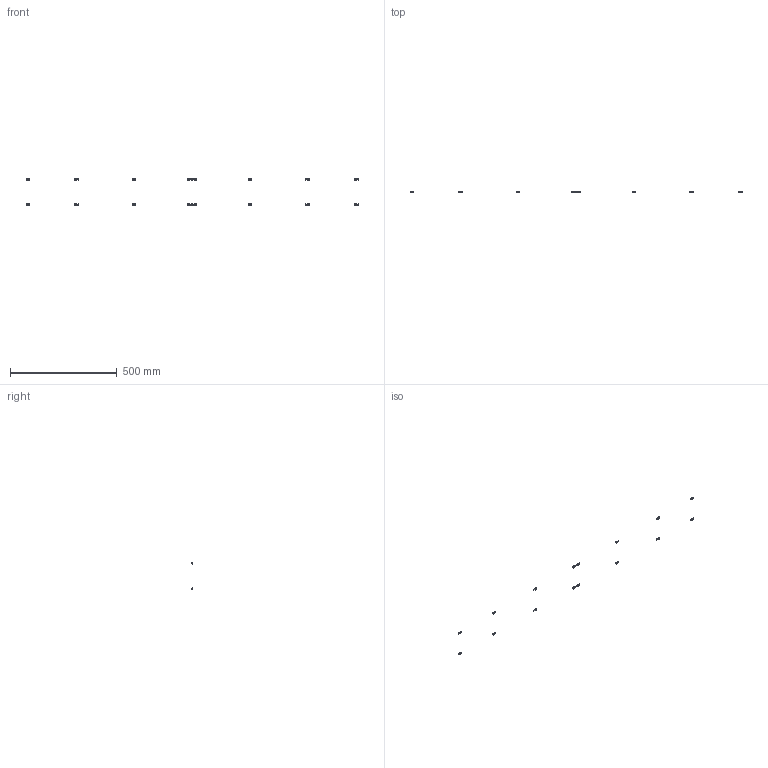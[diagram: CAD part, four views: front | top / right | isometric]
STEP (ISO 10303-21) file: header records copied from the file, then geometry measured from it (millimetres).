
FILE_DESCRIPTION(/* description */ (''),/* implementation_level */ '2;1');
FILE_NAME(/* name */ '13.door-panels#13.1#HNTPZ5-5',/* time_stamp */ '2014-12-01T20:19:45+01:00',/* author */ (''),/* organization */ (''),/* preprocessor_version */ 'ST-DEVELOPER v14',/* originating_system */ '',/* authorisation */ '');
FILE_SCHEMA (('AUTOMOTIVE_DESIGN'));
Length unit declared in the file: millimetre
Products named in the file (2): Document; nut tslot, post, M5
Assembly tree (8 placements, depth 2):
  Document
    nut tslot, post, M5  x8
Bounding box: 1556 x 3.8 x 128.3 mm (x, y, z)
Volume: 5040.2 mm3; surface area: 6712.1 mm2
Topology: 16 solids, 16 shells, 208 faces, 576 edges, 384 vertices
Faces by surface type: plane 176, bspline 32
Entity records: 8673 total; most frequent: CARTESIAN_POINT 4115, B_SPLINE_CURVE_WITH_KNOTS 900, ORIENTED_EDGE 648, PCURVE 648, DEFINITIONAL_REPRESENTATION 648, SURFACE_CURVE 324, EDGE_CURVE 324, VERTEX_POINT 216
